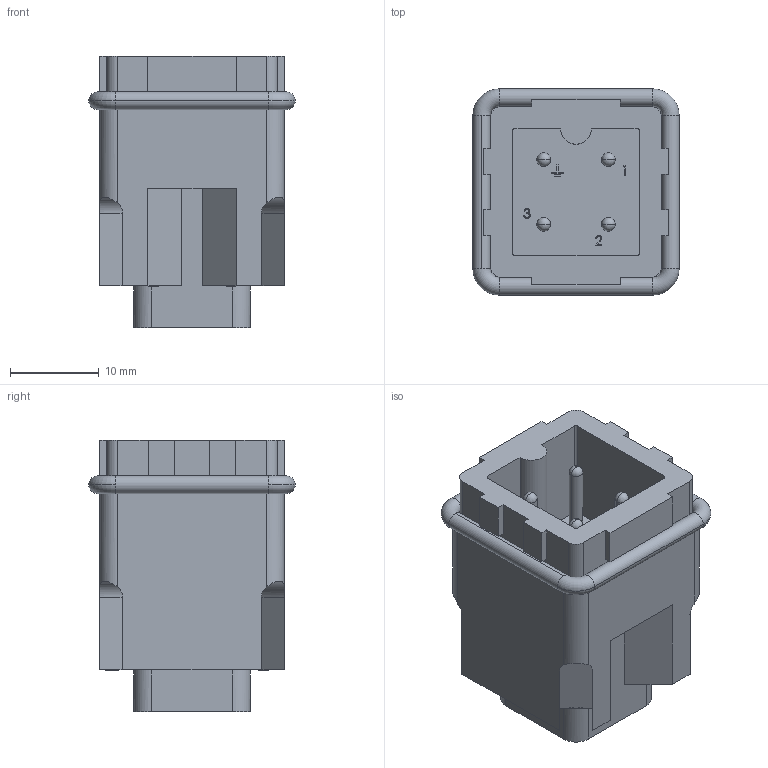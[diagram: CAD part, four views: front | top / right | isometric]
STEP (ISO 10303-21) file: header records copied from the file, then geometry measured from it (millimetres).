
FILE_DESCRIPTION (( 'STEP AP214' ), '1' );
FILE_NAME ('CKM-03.STEP', '2006-07-06T12:05:45', ( 'Mencom User' ), ( 'Mencom Corporation' ), 'SwSTEP 2.0', 'SolidWorks 2006104', '' );
FILE_SCHEMA (( 'AUTOMOTIVE_DESIGN' ));
Length unit declared in the file: inch
Products named in the file (1): CKM-03
Bounding box: 23.29 x 23.29 x 30.61 mm (x, y, z)
Volume: 8357 mm3; surface area: 5297.4 mm2
Topology: 2 solids, 2 shells, 318 faces, 817 edges, 534 vertices
Faces by surface type: plane 188, cylinder 72, bspline 40, torus 18
Entity records: 16777 total; most frequent: CARTESIAN_POINT 5451, ORIENTED_EDGE 1634, DIRECTION 1435, EDGE_CURVE 817, VECTOR 535, LINE 535, VERTEX_POINT 534, AXIS2_PLACEMENT_3D 450
